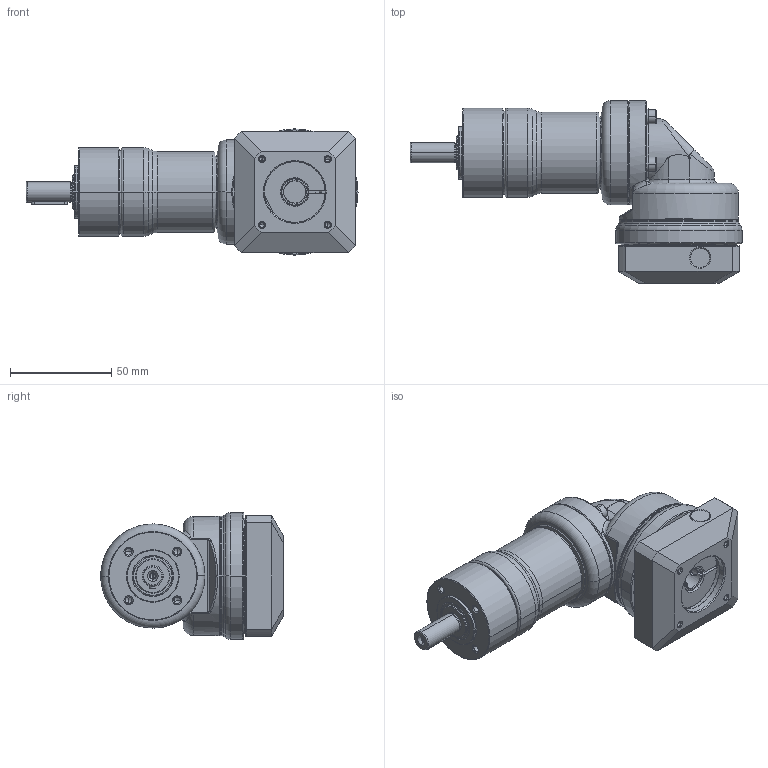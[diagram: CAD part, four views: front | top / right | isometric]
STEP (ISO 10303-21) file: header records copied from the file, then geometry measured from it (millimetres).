
FILE_DESCRIPTION((''),'2;1');
FILE_NAME('PG2R-040_3ST_11-P0411200101_ASM','2016-04-26T',('d01943'),(''),'PRO/ENGINEER BY PARAMETRIC TECHNOLOGY CORPORATION, 2008410','PRO/ENGINEER BY PARAMETRIC TECHNOLOGY CORPORATION, 2008410','');
FILE_SCHEMA(('CONFIG_CONTROL_DESIGN'));
Length unit declared in the file: millimetre
Products named in the file (12): P1325100001; P0273100001; P0350101103; P1349100001; P1017100001; P0713101001; P0503200005; P1350100101; P0411200101; P1702300001; 2111B104015; PG2R-040_3ST_11-P0411200101_ASM
Assembly tree (14 placements, depth 2):
  PG2R-040_3ST_11-P0411200101_ASM
    P1325100001
    P0273100001
    P0350101103
    P1349100001
    P1017100001
    P0713101001
    P0503200005
    P1350100101
    P0411200101
    P1702300001
    2111B104015  x4
Bounding box: 164.25 x 90.25 x 62.5 mm (x, y, z)
Volume: 198309.9 mm3; surface area: 81006.5 mm2
Topology: 14 solids, 15 shells, 736 faces, 1603 edges, 928 vertices
Faces by surface type: cylinder 224, cone 208, plane 163, torus 106, bspline 35
Entity records: 23124 total; most frequent: CARTESIAN_POINT 8919, DIRECTION 3172, ORIENTED_EDGE 2730, EDGE_CURVE 1365, AXIS2_PLACEMENT_3D 1346, VERTEX_POINT 808, EDGE_LOOP 721, CIRCLE 718
